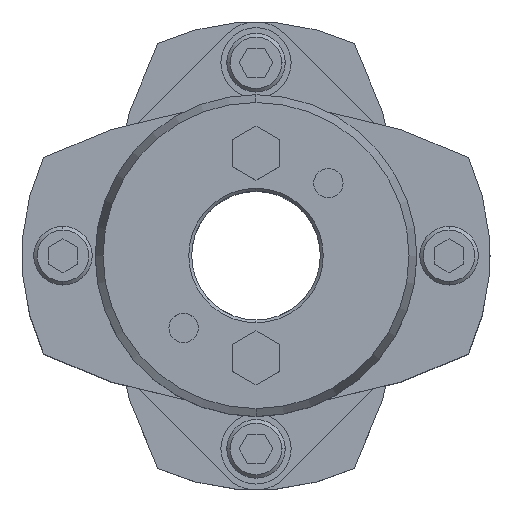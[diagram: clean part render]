
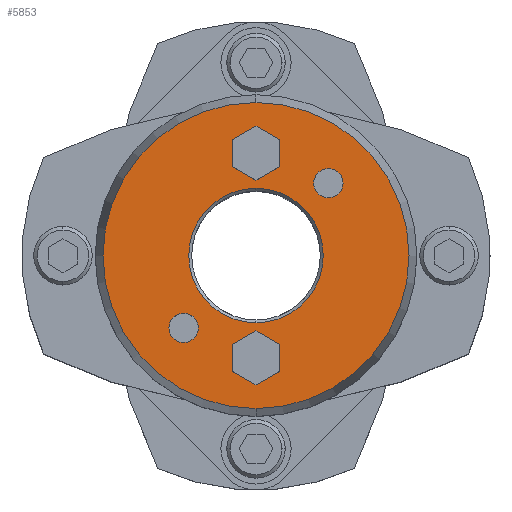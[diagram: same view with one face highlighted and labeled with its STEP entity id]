
A CAD part, top view. The second image highlights one B-rep face of the part: STEP entity #5853.
In plain terms, the highlighted planar face has unit normal (0, 0, 1).
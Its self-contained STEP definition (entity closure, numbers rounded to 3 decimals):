
#1677=CARTESIAN_POINT('',(0.,11.5,45.25));
#1678=VERTEX_POINT('',#1677);
#1694=CARTESIAN_POINT('',(0.,-11.5,45.25));
#1695=VERTEX_POINT('',#1694);
#1702=CARTESIAN_POINT('',(0.,0.,45.25));
#1703=DIRECTION('',(0.0,0.0,1.0));
#1704=DIRECTION('',(0.,1.0,0.0));
#1705=AXIS2_PLACEMENT_3D('',#1702,#1703,#1704);
#1706=CIRCLE('',#1705,11.5);
#1707=EDGE_CURVE('',#1695,#1678,#1706,.T.);
#1865=CARTESIAN_POINT('',(0.,-26.16,45.25));
#1866=VERTEX_POINT('',#1865);
#1873=CARTESIAN_POINT('',(0.,26.16,45.25));
#1874=VERTEX_POINT('',#1873);
#1875=CARTESIAN_POINT('',(0.,0.,45.25));
#1876=DIRECTION('',(0.0,0.0,-1.0));
#1877=DIRECTION('',(0.,-1.0,0.0));
#1878=AXIS2_PLACEMENT_3D('',#1875,#1876,#1877);
#1879=CIRCLE('',#1878,26.16);
#1880=EDGE_CURVE('',#1866,#1874,#1879,.T.);
#1975=CARTESIAN_POINT('',(12.374,14.874,45.25));
#1976=VERTEX_POINT('',#1975);
#1992=CARTESIAN_POINT('',(12.374,9.874,45.25));
#1993=VERTEX_POINT('',#1992);
#2000=CARTESIAN_POINT('',(12.374,12.374,45.25));
#2001=DIRECTION('',(0.0,0.0,-1.0));
#2002=DIRECTION('',(0.,1.0,0.0));
#2003=AXIS2_PLACEMENT_3D('',#2000,#2001,#2002);
#2004=CIRCLE('',#2003,2.5);
#2005=EDGE_CURVE('',#1976,#1993,#2004,.T.);
#2017=CARTESIAN_POINT('',(-12.374,-9.874,45.25));
#2018=VERTEX_POINT('',#2017);
#2034=CARTESIAN_POINT('',(-12.374,-14.874,45.25));
#2035=VERTEX_POINT('',#2034);
#2042=CARTESIAN_POINT('',(-12.374,-12.374,45.25));
#2043=DIRECTION('',(0.0,0.0,-1.0));
#2044=DIRECTION('',(0.,1.0,0.0));
#2045=AXIS2_PLACEMENT_3D('',#2042,#2043,#2044);
#2046=CIRCLE('',#2045,2.5);
#2047=EDGE_CURVE('',#2018,#2035,#2046,.T.);
#5097=CARTESIAN_POINT('',(0.,22.119,45.25));
#5098=VERTEX_POINT('',#5097);
#5105=CARTESIAN_POINT('',(-4.,19.809,45.25));
#5106=VERTEX_POINT('',#5105);
#5107=CARTESIAN_POINT('',(-4.,19.809,45.25));
#5108=DIRECTION('',(0.866,0.5,0.0));
#5109=VECTOR('',#5108,4.619);
#5110=LINE('',#5107,#5109);
#5111=EDGE_CURVE('',#5106,#5098,#5110,.T.);
#5135=CARTESIAN_POINT('',(4.,19.809,45.25));
#5136=VERTEX_POINT('',#5135);
#5143=CARTESIAN_POINT('',(0.,22.119,45.25));
#5144=DIRECTION('',(0.866,-0.5,0.0));
#5145=VECTOR('',#5144,4.619);
#5146=LINE('',#5143,#5145);
#5147=EDGE_CURVE('',#5098,#5136,#5146,.T.);
#5166=CARTESIAN_POINT('',(4.,15.191,45.25));
#5167=VERTEX_POINT('',#5166);
#5174=CARTESIAN_POINT('',(4.,19.809,45.25));
#5175=DIRECTION('',(0.,-1.0,0.0));
#5176=VECTOR('',#5175,4.619);
#5177=LINE('',#5174,#5176);
#5178=EDGE_CURVE('',#5136,#5167,#5177,.T.);
#5197=CARTESIAN_POINT('',(0.,12.881,45.25));
#5198=VERTEX_POINT('',#5197);
#5205=CARTESIAN_POINT('',(4.,15.191,45.25));
#5206=DIRECTION('',(-0.866,-0.5,0.0));
#5207=VECTOR('',#5206,4.619);
#5208=LINE('',#5205,#5207);
#5209=EDGE_CURVE('',#5167,#5198,#5208,.T.);
#5228=CARTESIAN_POINT('',(-4.,15.191,45.25));
#5229=VERTEX_POINT('',#5228);
#5236=CARTESIAN_POINT('',(0.,12.881,45.25));
#5237=DIRECTION('',(-0.866,0.5,0.0));
#5238=VECTOR('',#5237,4.619);
#5239=LINE('',#5236,#5238);
#5240=EDGE_CURVE('',#5198,#5229,#5239,.T.);
#5258=CARTESIAN_POINT('',(-4.,15.191,45.25));
#5259=DIRECTION('',(0.,1.0,0.0));
#5260=VECTOR('',#5259,4.619);
#5261=LINE('',#5258,#5260);
#5262=EDGE_CURVE('',#5229,#5106,#5261,.T.);
#5297=CARTESIAN_POINT('',(0.,-12.881,45.25));
#5298=VERTEX_POINT('',#5297);
#5305=CARTESIAN_POINT('',(-4.,-15.191,45.25));
#5306=VERTEX_POINT('',#5305);
#5307=CARTESIAN_POINT('',(-4.,-15.191,45.25));
#5308=DIRECTION('',(0.866,0.5,0.0));
#5309=VECTOR('',#5308,4.619);
#5310=LINE('',#5307,#5309);
#5311=EDGE_CURVE('',#5306,#5298,#5310,.T.);
#5335=CARTESIAN_POINT('',(4.,-15.191,45.25));
#5336=VERTEX_POINT('',#5335);
#5343=CARTESIAN_POINT('',(0.,-12.881,45.25));
#5344=DIRECTION('',(0.866,-0.5,0.0));
#5345=VECTOR('',#5344,4.619);
#5346=LINE('',#5343,#5345);
#5347=EDGE_CURVE('',#5298,#5336,#5346,.T.);
#5366=CARTESIAN_POINT('',(4.,-19.809,45.25));
#5367=VERTEX_POINT('',#5366);
#5374=CARTESIAN_POINT('',(4.,-15.191,45.25));
#5375=DIRECTION('',(0.,-1.0,0.0));
#5376=VECTOR('',#5375,4.619);
#5377=LINE('',#5374,#5376);
#5378=EDGE_CURVE('',#5336,#5367,#5377,.T.);
#5397=CARTESIAN_POINT('',(0.,-22.119,45.25));
#5398=VERTEX_POINT('',#5397);
#5405=CARTESIAN_POINT('',(4.,-19.809,45.25));
#5406=DIRECTION('',(-0.866,-0.5,0.0));
#5407=VECTOR('',#5406,4.619);
#5408=LINE('',#5405,#5407);
#5409=EDGE_CURVE('',#5367,#5398,#5408,.T.);
#5428=CARTESIAN_POINT('',(-4.,-19.809,45.25));
#5429=VERTEX_POINT('',#5428);
#5436=CARTESIAN_POINT('',(0.,-22.119,45.25));
#5437=DIRECTION('',(-0.866,0.5,0.0));
#5438=VECTOR('',#5437,4.619);
#5439=LINE('',#5436,#5438);
#5440=EDGE_CURVE('',#5398,#5429,#5439,.T.);
#5458=CARTESIAN_POINT('',(-4.,-19.809,45.25));
#5459=DIRECTION('',(0.,1.0,0.0));
#5460=VECTOR('',#5459,4.619);
#5461=LINE('',#5458,#5460);
#5462=EDGE_CURVE('',#5429,#5306,#5461,.T.);
#5488=CARTESIAN_POINT('',(-12.374,-12.374,45.25));
#5489=DIRECTION('',(0.0,0.0,-1.0));
#5490=DIRECTION('',(0.,1.0,0.0));
#5491=AXIS2_PLACEMENT_3D('',#5488,#5489,#5490);
#5492=CIRCLE('',#5491,2.5);
#5493=EDGE_CURVE('',#2035,#2018,#5492,.T.);
#5522=CARTESIAN_POINT('',(12.374,12.374,45.25));
#5523=DIRECTION('',(0.0,0.0,-1.0));
#5524=DIRECTION('',(0.,1.0,0.0));
#5525=AXIS2_PLACEMENT_3D('',#5522,#5523,#5524);
#5526=CIRCLE('',#5525,2.5);
#5527=EDGE_CURVE('',#1993,#1976,#5526,.T.);
#5800=CARTESIAN_POINT('',(0.,0.,45.25));
#5801=DIRECTION('',(0.0,0.0,-1.0));
#5802=DIRECTION('',(0.,-1.0,0.0));
#5803=AXIS2_PLACEMENT_3D('',#5800,#5801,#5802);
#5804=CIRCLE('',#5803,26.16);
#5805=EDGE_CURVE('',#1874,#1866,#5804,.T.);
#5810=CARTESIAN_POINT('',(0.,2.364,45.25));
#5811=DIRECTION('',(0.0,0.0,1.0));
#5812=DIRECTION('',(0.,1.0,0.0));
#5813=AXIS2_PLACEMENT_3D('',#5810,#5811,#5812);
#5814=PLANE('',#5813);
#5815=ORIENTED_EDGE('',*,*,#5805,.F.);
#5816=ORIENTED_EDGE('',*,*,#1880,.F.);
#5817=EDGE_LOOP('',(#5815,#5816));
#5818=FACE_OUTER_BOUND('',#5817,.T.);
#5819=ORIENTED_EDGE('',*,*,#5111,.T.);
#5820=ORIENTED_EDGE('',*,*,#5147,.T.);
#5821=ORIENTED_EDGE('',*,*,#5178,.T.);
#5822=ORIENTED_EDGE('',*,*,#5209,.T.);
#5823=ORIENTED_EDGE('',*,*,#5240,.T.);
#5824=ORIENTED_EDGE('',*,*,#5262,.T.);
#5825=EDGE_LOOP('',(#5819,#5820,#5821,#5822,#5823,#5824));
#5826=FACE_BOUND('',#5825,.T.);
#5827=ORIENTED_EDGE('',*,*,#5311,.T.);
#5828=ORIENTED_EDGE('',*,*,#5347,.T.);
#5829=ORIENTED_EDGE('',*,*,#5378,.T.);
#5830=ORIENTED_EDGE('',*,*,#5409,.T.);
#5831=ORIENTED_EDGE('',*,*,#5440,.T.);
#5832=ORIENTED_EDGE('',*,*,#5462,.T.);
#5833=EDGE_LOOP('',(#5827,#5828,#5829,#5830,#5831,#5832));
#5834=FACE_BOUND('',#5833,.T.);
#5835=ORIENTED_EDGE('',*,*,#2047,.T.);
#5836=ORIENTED_EDGE('',*,*,#5493,.T.);
#5837=EDGE_LOOP('',(#5835,#5836));
#5838=FACE_BOUND('',#5837,.T.);
#5839=ORIENTED_EDGE('',*,*,#2005,.T.);
#5840=ORIENTED_EDGE('',*,*,#5527,.T.);
#5841=EDGE_LOOP('',(#5839,#5840));
#5842=FACE_BOUND('',#5841,.T.);
#5843=ORIENTED_EDGE('',*,*,#1707,.F.);
#5844=CARTESIAN_POINT('',(0.,0.,45.25));
#5845=DIRECTION('',(0.0,0.0,1.0));
#5846=DIRECTION('',(0.,1.0,0.0));
#5847=AXIS2_PLACEMENT_3D('',#5844,#5845,#5846);
#5848=CIRCLE('',#5847,11.5);
#5849=EDGE_CURVE('',#1678,#1695,#5848,.T.);
#5850=ORIENTED_EDGE('',*,*,#5849,.F.);
#5851=EDGE_LOOP('',(#5843,#5850));
#5852=FACE_BOUND('',#5851,.T.);
#5853=ADVANCED_FACE('',(#5818,#5826,#5834,#5838,#5842,#5852),#5814,.T.);
